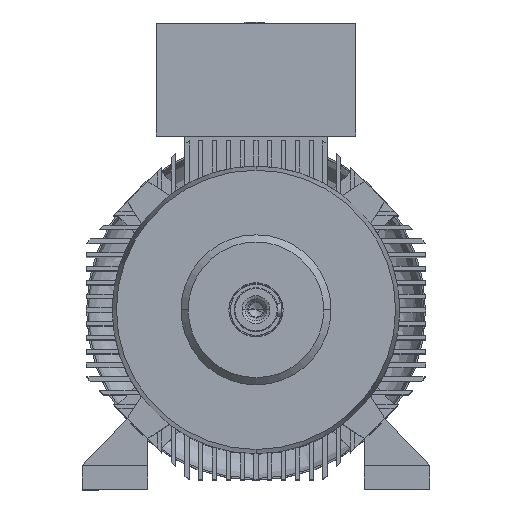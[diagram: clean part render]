
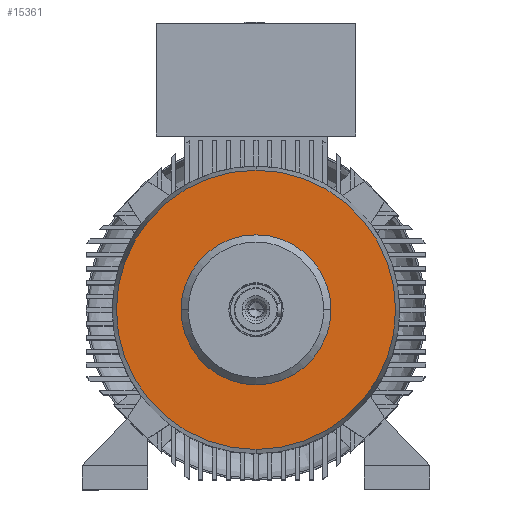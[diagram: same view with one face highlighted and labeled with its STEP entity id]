
A CAD part, top view. The second image highlights one B-rep face of the part: STEP entity #15361.
In plain terms, the highlighted planar face has unit normal (0, 0, 1).
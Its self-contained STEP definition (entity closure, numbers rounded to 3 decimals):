
#156 = PLANE ( 'NONE',  #26456 ) ;
#1909 = CARTESIAN_POINT ( 'NONE',  ( 0., 175.013, 293.5 ) ) ;
#2688 = CIRCLE ( 'NONE', #25125, 175.013 ) ;
#3471 = AXIS2_PLACEMENT_3D ( 'NONE', #20981, #4723, #12970 ) ;
#3716 = EDGE_CURVE ( 'NONE', #18440, #7349, #11000, .T. ) ;
#3878 = DIRECTION ( 'NONE',  ( 0., 0., -1. ) ) ;
#3938 = EDGE_CURVE ( 'NONE', #4312, #24975, #2688, .T. ) ;
#4312 = VERTEX_POINT ( 'NONE', #14507 ) ;
#4470 = CARTESIAN_POINT ( 'NONE',  ( 94., 0., 293.5 ) ) ;
#4587 = EDGE_LOOP ( 'NONE', ( #16675, #22430 ) ) ;
#4723 = DIRECTION ( 'NONE',  ( 0., 0., 1. ) ) ;
#6187 = CARTESIAN_POINT ( 'NONE',  ( 0., 175.013, 293.5 ) ) ;
#6408 = CIRCLE ( 'NONE', #17313, 94. ) ;
#6864 = CARTESIAN_POINT ( 'NONE',  ( -94., 0., 293.5 ) ) ;
#7349 = VERTEX_POINT ( 'NONE', #4470 ) ;
#9237 = CARTESIAN_POINT ( 'NONE',  ( 0., 0., 293.5 ) ) ;
#9274 = CIRCLE ( 'NONE', #3471, 175.013 ) ;
#10072 = DIRECTION ( 'NONE',  ( 1., 0., 0. ) ) ;
#11000 = CIRCLE ( 'NONE', #25627, 94. ) ;
#11091 = EDGE_CURVE ( 'NONE', #7349, #18440, #6408, .T. ) ;
#11763 = EDGE_CURVE ( 'NONE', #24975, #4312, #9274, .T. ) ;
#12234 = DIRECTION ( 'NONE',  ( 1., 0., 0. ) ) ;
#12823 = DIRECTION ( 'NONE',  ( 0., -1., 0. ) ) ;
#12970 = DIRECTION ( 'NONE',  ( 0., -1., 0. ) ) ;
#13289 = FACE_BOUND ( 'NONE', #4587, .T. ) ;
#13350 = DIRECTION ( 'NONE',  ( 0., 0., 1. ) ) ;
#14272 = CARTESIAN_POINT ( 'NONE',  ( 0., 0., 293.5 ) ) ;
#14507 = CARTESIAN_POINT ( 'NONE',  ( 0., -175.013, 293.5 ) ) ;
#15361 = ADVANCED_FACE ( 'NONE', ( #13289, #24768 ), #156, .F. ) ;
#16124 = CARTESIAN_POINT ( 'NONE',  ( 0., 0., 293.5 ) ) ;
#16484 = DIRECTION ( 'NONE',  ( 1., 0., 0. ) ) ;
#16675 = ORIENTED_EDGE ( 'NONE', *, *, #11091, .T. ) ;
#17313 = AXIS2_PLACEMENT_3D ( 'NONE', #14272, #24343, #12234 ) ;
#17569 = ORIENTED_EDGE ( 'NONE', *, *, #3938, .T. ) ;
#18088 = EDGE_LOOP ( 'NONE', ( #17569, #19766 ) ) ;
#18440 = VERTEX_POINT ( 'NONE', #6864 ) ;
#19766 = ORIENTED_EDGE ( 'NONE', *, *, #11763, .T. ) ;
#20504 = DIRECTION ( 'NONE',  ( 0., 0., -1. ) ) ;
#20981 = CARTESIAN_POINT ( 'NONE',  ( 0., 0., 293.5 ) ) ;
#22430 = ORIENTED_EDGE ( 'NONE', *, *, #3716, .T. ) ;
#24343 = DIRECTION ( 'NONE',  ( 0., 0., -1. ) ) ;
#24768 = FACE_OUTER_BOUND ( 'NONE', #18088, .T. ) ;
#24975 = VERTEX_POINT ( 'NONE', #1909 ) ;
#25125 = AXIS2_PLACEMENT_3D ( 'NONE', #9237, #13350, #12823 ) ;
#25627 = AXIS2_PLACEMENT_3D ( 'NONE', #16124, #3878, #10072 ) ;
#26456 = AXIS2_PLACEMENT_3D ( 'NONE', #6187, #20504, #16484 ) ;
